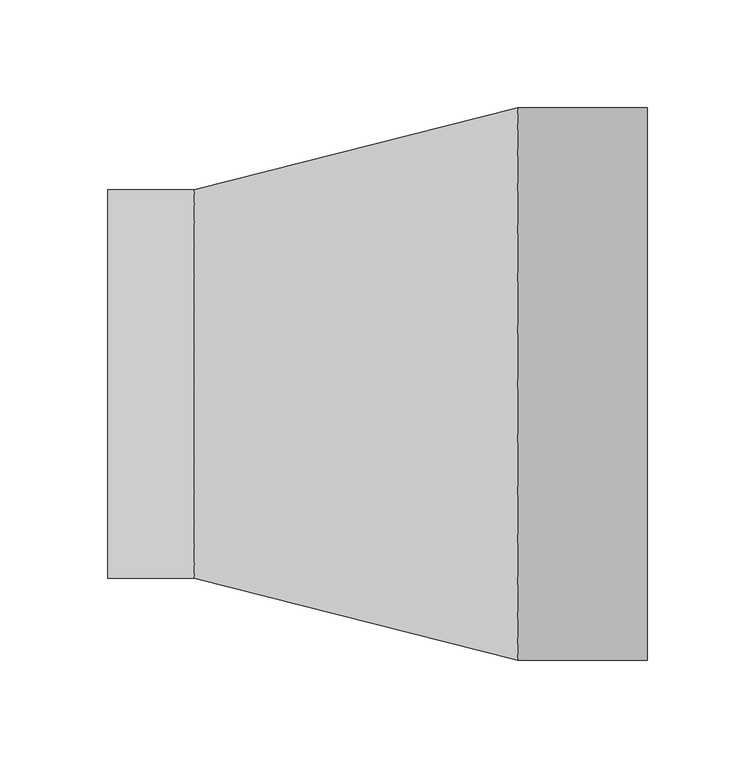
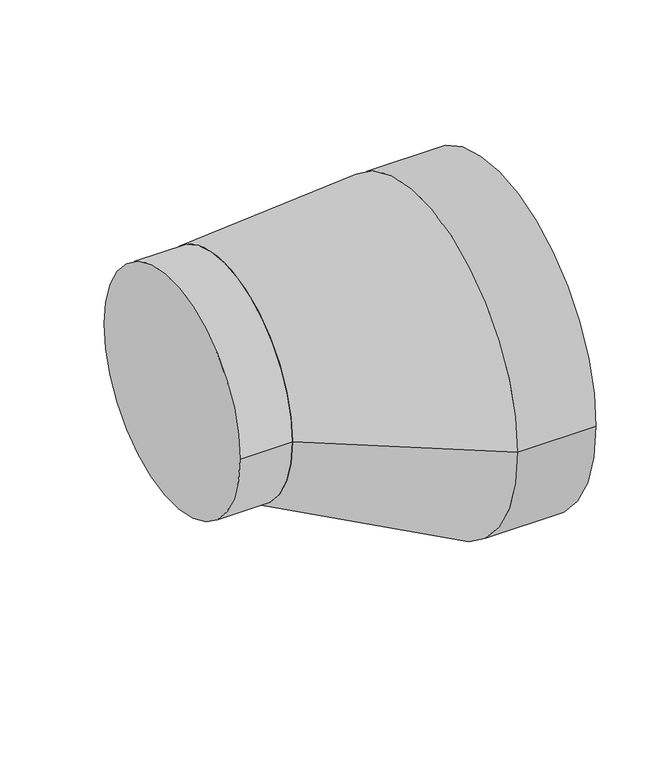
"""IFC4 building model written with IfcOpenShell, lengths in millimetres: duct fitting geometry, NLRS_57_DUF_UN_excentric EPP adapter_M&G : ø150 - ø160."""

from ifc_helpers import new_model, si_unit, point, frame, frame_2d, origin, origin_2d, place, context, project, spatial, circle_curve, trimmed, segment, composite_curve, outline, extrude, source, transform, mapped, element, save
from ifc_brep_helpers import plane_surface, spline_surface, advanced_brep


def duct_fitting_0e2580d3(model_context):
    return source(origin(), model_context, "Body", "SolidModel", [
        advanced_brep(
        [(65.0, -128.0, -38.0), (65.0, 128.0, -38.0), (-85.0, -90.0, 0.0), (-85.0, 90.0, 0.0)],
        [
            (0, 1, circle_curve(frame((65.0, 0.0, -38.0), z_axis=(1.0, 0.0, 0.0), x_axis=(0.0, 1.0, 0.0)), 128.0)),
            (1, 0, circle_curve(frame((65.0, 0.0, -38.0), z_axis=(1.0, 0.0, 0.0), x_axis=(0.0, 1.0, 0.0)), 128.0)),
            (2, 3, circle_curve(frame((-85.0, 0.0, 0.0), z_axis=(-1.0, 0.0, 0.0), x_axis=(0.0, 1.0, 0.0)), 90.0)),
            (3, 2, circle_curve(frame((-85.0, 0.0, 0.0), z_axis=(-1.0, 0.0, 0.0), x_axis=(0.0, 1.0, 0.0)), 90.0)),
            (3, 1),
            (0, 2),
        ],
        [
            plane_surface(frame((65.0, 0.0, -38.0), z_axis=(1.0, 0.0, 0.0), x_axis=(0.0, 0.0, -1.0))),
            plane_surface(frame((-85.0, 0.0, 0.0), z_axis=(-1.0, 0.0, 0.0), x_axis=(0.0, 0.0, -1.0))),
            spline_surface(2, 1, [[(-85.0, -90.0, 0.0), (65.0, -128.0, -38.0)], [(-85.0, -90.0, -90.0), (65.0, -128.0, -166.0)], [(-85.0, 0.0, -90.0), (65.0, 0.0, -166.0)], [(-85.0, 90.0, -90.0), (65.0, 128.0, -166.0)], [(-85.0, 90.0, 0.0), (65.0, 128.0, -38.0)]], [3, 2, 3], [2, 2], [0.0, 1.0, 2.0], [0.0, 1.0], weights=[[1.0, 1.0], [0.7071067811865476, 0.7071067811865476], [1.0, 1.0], [0.7071067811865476, 0.7071067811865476], [1.0, 1.0]]),
            spline_surface(2, 1, [[(-85.0, 90.0, 0.0), (65.0, 128.0, -38.0)], [(-85.0, 90.0, 90.0), (65.0, 128.0, 90.0)], [(-85.0, 0.0, 90.0), (65.0, 0.0, 90.0)], [(-85.0, -90.0, 90.0), (65.0, -128.0, 90.0)], [(-85.0, -90.0, 0.0), (65.0, -128.0, -38.0)]], [3, 2, 3], [2, 2], [0.0, 1.0, 2.0], [0.0, 1.0], weights=[[1.0, 1.0], [0.7071067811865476, 0.7071067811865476], [1.0, 1.0], [0.7071067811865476, 0.7071067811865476], [1.0, 1.0]]),
        ],
        [
            (0, [[1, 2]]),
            (1, [[3, 4]]),
            (2, [[-4, 5, -1, 6]]),
            (3, [[-3, -6, -2, -5]]),
        ],
    ),
        extrude(outline(composite_curve([segment(trimmed(circle_curve(origin_2d(), 90.0), [point((90.0, 0.0))], [point((-90.0, 0.0))], False, "CARTESIAN"), True, "CONTINUOUS"), segment(trimmed(circle_curve(origin_2d(), 90.0), [point((-90.0, 0.0))], [point((90.0, 0.0))], False, "CARTESIAN"), True, "CONTINUOUS")], self_intersect=False)), frame((-125.0, 0.0, 0.0), z_axis=(1.0, 0.0, 0.0), x_axis=(0.0, 1.0, 0.0)), (0.0, 0.0, 1.0), 40.0),
        extrude(outline(composite_curve([segment(trimmed(circle_curve(frame_2d((0.0, -38.0)), 128.0), [point((-128.0, -38.0))], [point((128.0, -38.0))], False, "CARTESIAN"), True, "CONTINUOUS"), segment(trimmed(circle_curve(frame_2d((0.0, -38.0)), 128.0), [point((128.0, -38.0))], [point((-128.0, -38.0))], False, "CARTESIAN"), True, "CONTINUOUS")], self_intersect=False), holes=[composite_curve([segment(trimmed(circle_curve(frame_2d((0.0, -38.0)), 101.5), [point((101.5, -38.0))], [point((-101.5, -38.0))], True, "CARTESIAN"), True, "CONTINUOUS"), segment(trimmed(circle_curve(frame_2d((0.0, -38.0)), 101.5), [point((-101.5, -38.0))], [point((101.5, -38.0))], True, "CARTESIAN"), True, "CONTINUOUS")], self_intersect=False)]), frame((65.0, 0.0, 0.0), z_axis=(1.0, 0.0, 0.0), x_axis=(0.0, 1.0, 0.0)), (0.0, 0.0, 1.0), 60.0),
    ])


if __name__ == "__main__":
    model = new_model("IFC4")
    model_context = context("Model", 3, world=origin())
    ifc_project = project(units=[si_unit("LENGTHUNIT", "METRE", prefix="MILLI")], contexts=[model_context])
    site = spatial("IfcSite", under=ifc_project)
    building = spatial("IfcBuilding", under=site)
    placement = place(None, origin())
    duct_fitting_shape = duct_fitting_0e2580d3(model_context)
    element("IfcDuctFitting", 1, ObjectType="NLRS_57_DUF_UN_excentric EPP adapter_M&G : ø150 - ø160", at=placement, inside=building, context=model_context, shape_type="MappedRepresentation", body=[
        mapped(duct_fitting_shape, transform((0.0, 0.0, 0.0), x_axis=(1.0, 0.0, 0.0), y_axis=(0.0, 1.0, 0.0), z_axis=(0.0, 0.0, 1.0))),
    ])
    save(model, "model.ifc")
